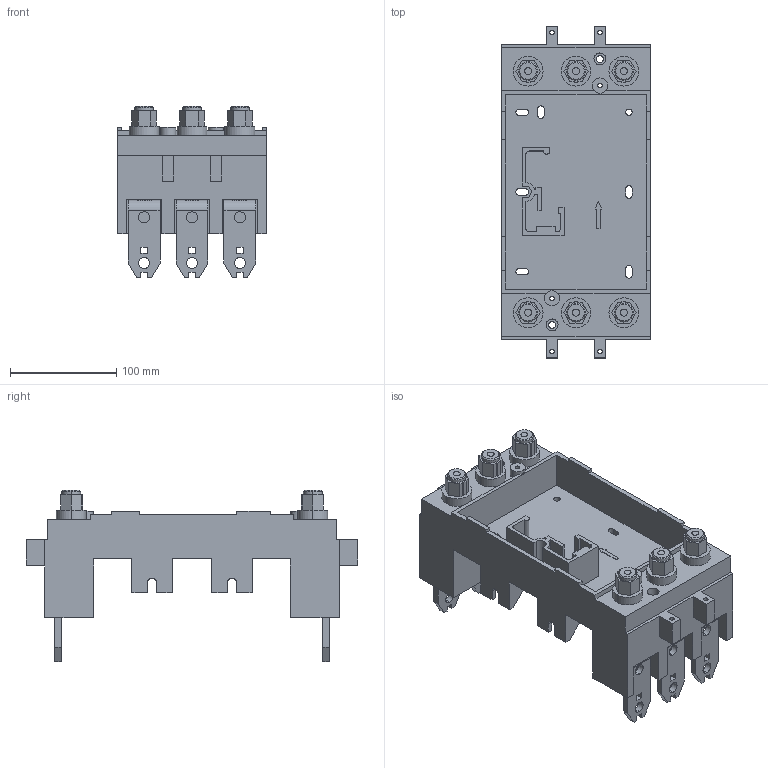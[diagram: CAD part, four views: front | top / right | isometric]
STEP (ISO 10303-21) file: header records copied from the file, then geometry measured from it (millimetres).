
FILE_DESCRIPTION (( 'STEP AP214' ), '1' );
FILE_NAME ('Êîìïëåêò äëÿ âòû÷íîãî ïðèñîåäèíåíèÿ OptiMat D400, D630 ãîðèçîíòàëüíûå âûâîäû âàðèàíò 2.STEP', '2023-04-04T03:40:12', ( '' ), ( '' ), 'SwSTEP 2.0', 'SolidWorks 2018', '' );
FILE_SCHEMA (( 'AUTOMOTIVE_DESIGN' ));
Length unit declared in the file: millimetre
Products named in the file (3): Âòû÷íîå âûäâèæíîå 630; ﾂ鏆鮏; Êîìïëåêò äëÿ âòû÷íîãî ïðèñîåäèíåíèÿ OptiMat D400, D630 ãîðèçîíòàëüíûå âûâîäû âàðèàíò 2
Assembly tree (7 placements, depth 2):
  Êîìïëåêò äëÿ âòû÷íîãî ïðèñîåäèíåíèÿ OptiMat D400, D630 ãîðèçîíòàëüíûå âûâîäû âàðèàíò 2
    Âòû÷íîå âûäâèæíîå 630
    ﾂ鏆鮏  x6
Bounding box: 140 x 312 x 161.5 mm (x, y, z)
Volume: 1353740.2 mm3; surface area: 296134.9 mm2
Topology: 7 solids, 7 shells, 571 faces, 1545 edges, 1022 vertices
Faces by surface type: plane 385, cylinder 174, cone 12
Entity records: 13839 total; most frequent: CARTESIAN_POINT 2388, DIRECTION 2353, ORIENTED_EDGE 2330, EDGE_CURVE 1165, LINE 879, VECTOR 879, VERTEX_POINT 772, AXIS2_PLACEMENT_3D 737
